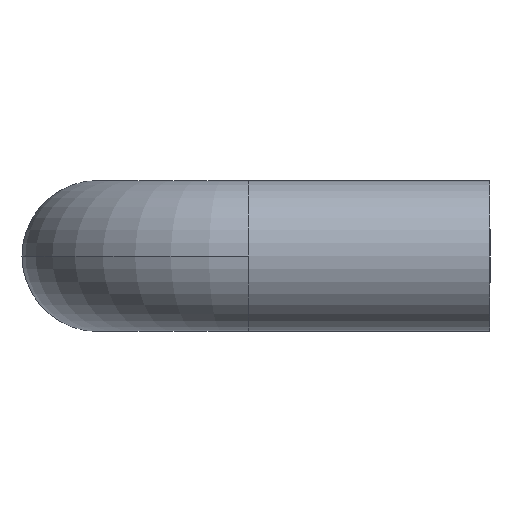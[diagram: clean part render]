
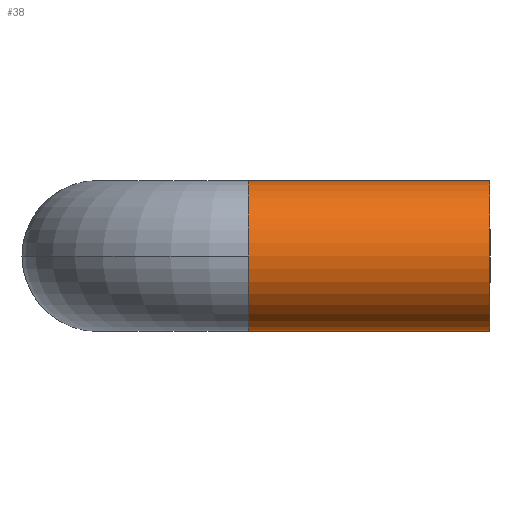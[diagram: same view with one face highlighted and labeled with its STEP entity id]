
A CAD part, left-side view. The second image highlights one B-rep face of the part: STEP entity #38.
In plain terms, the highlighted cylindrical face has radius 10 mm (diameter 20 mm), a partial arc.
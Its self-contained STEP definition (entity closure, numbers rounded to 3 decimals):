
#4 = CARTESIAN_POINT ( 'NONE',  ( -130., -52., 0. ) ) ;
#38 = ADVANCED_FACE ( 'NONE', ( #332 ), #403, .T. ) ;
#87 = DIRECTION ( 'NONE',  ( 0., 0., -1. ) ) ;
#89 = DIRECTION ( 'NONE',  ( 0., -1., 0. ) ) ;
#91 = CARTESIAN_POINT ( 'NONE',  ( -130., -20., 0. ) ) ;
#96 = DIRECTION ( 'NONE',  ( 0., -1., 0. ) ) ;
#103 = CARTESIAN_POINT ( 'NONE',  ( -130., -20., 10. ) ) ;
#120 = CARTESIAN_POINT ( 'NONE',  ( -140., -20., 0. ) ) ;
#133 = CARTESIAN_POINT ( 'NONE',  ( -130., -20., 0. ) ) ;
#134 = DIRECTION ( 'NONE',  ( 0., -1., 0. ) ) ;
#135 = DIRECTION ( 'NONE',  ( 0., 0., -1. ) ) ;
#140 = DIRECTION ( 'NONE',  ( 0., -1., 0. ) ) ;
#141 = CARTESIAN_POINT ( 'NONE',  ( -130., -20., -10. ) ) ;
#147 = CARTESIAN_POINT ( 'NONE',  ( -130., -52., 10. ) ) ;
#179 = DIRECTION ( 'NONE',  ( 0., -1., 0. ) ) ;
#180 = DIRECTION ( 'NONE',  ( 0., 0., -1. ) ) ;
#199 = EDGE_CURVE ( 'NONE', #576, #320, #340, .T. ) ;
#205 = CARTESIAN_POINT ( 'NONE',  ( -130., -20., 0. ) ) ;
#206 = DIRECTION ( 'NONE',  ( 0., -1., 0. ) ) ;
#207 = DIRECTION ( 'NONE',  ( 0., 0., -1. ) ) ;
#235 = CARTESIAN_POINT ( 'NONE',  ( -130., -20., 10. ) ) ;
#238 = CARTESIAN_POINT ( 'NONE',  ( -130., -52., -10. ) ) ;
#252 = CARTESIAN_POINT ( 'NONE',  ( -130., -20., -10. ) ) ;
#286 = VERTEX_POINT ( 'NONE', #120 ) ;
#293 = AXIS2_PLACEMENT_3D ( 'NONE', #91, #89, #87 ) ;
#297 = EDGE_CURVE ( 'NONE', #576, #286, #431, .T. ) ;
#312 = EDGE_CURVE ( 'NONE', #620, #595, #435, .T. ) ;
#320 = VERTEX_POINT ( 'NONE', #147 ) ;
#332 = FACE_OUTER_BOUND ( 'NONE', #547, .T. ) ;
#340 = LINE ( 'NONE', #103, #412 ) ;
#342 = EDGE_CURVE ( 'NONE', #320, #595, #352, .T. ) ;
#352 = CIRCLE ( 'NONE', #473, 10. ) ;
#356 = CIRCLE ( 'NONE', #495, 10. ) ;
#363 = EDGE_CURVE ( 'NONE', #286, #620, #356, .T. ) ;
#403 = CYLINDRICAL_SURFACE ( 'NONE', #293, 10. ) ;
#412 = VECTOR ( 'NONE', #96, 1000. ) ;
#431 = CIRCLE ( 'NONE', #455, 10. ) ;
#435 = LINE ( 'NONE', #141, #441 ) ;
#441 = VECTOR ( 'NONE', #140, 1000. ) ;
#455 = AXIS2_PLACEMENT_3D ( 'NONE', #133, #134, #135 ) ;
#473 = AXIS2_PLACEMENT_3D ( 'NONE', #4, #179, #180 ) ;
#495 = AXIS2_PLACEMENT_3D ( 'NONE', #205, #206, #207 ) ;
#523 = ORIENTED_EDGE ( 'NONE', *, *, #363, .T. ) ;
#525 = ORIENTED_EDGE ( 'NONE', *, *, #297, .T. ) ;
#529 = ORIENTED_EDGE ( 'NONE', *, *, #342, .F. ) ;
#535 = ORIENTED_EDGE ( 'NONE', *, *, #312, .T. ) ;
#540 = ORIENTED_EDGE ( 'NONE', *, *, #199, .F. ) ;
#547 = EDGE_LOOP ( 'NONE', ( #540, #525, #523, #535, #529 ) ) ;
#576 = VERTEX_POINT ( 'NONE', #235 ) ;
#595 = VERTEX_POINT ( 'NONE', #238 ) ;
#620 = VERTEX_POINT ( 'NONE', #252 ) ;
